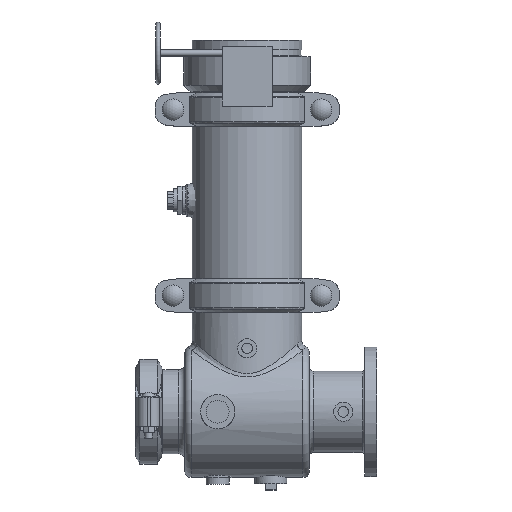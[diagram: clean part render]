
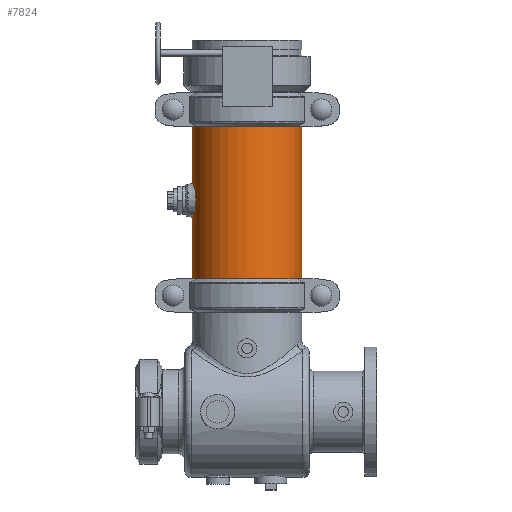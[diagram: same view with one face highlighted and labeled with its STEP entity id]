
A CAD part, top view. The second image highlights one B-rep face of the part: STEP entity #7824.
In plain terms, the highlighted cylindrical face has radius 109.537 mm (diameter 219.075 mm), a full revolution.
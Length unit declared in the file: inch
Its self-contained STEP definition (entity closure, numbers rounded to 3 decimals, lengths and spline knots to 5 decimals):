
#733=FACE_OUTER_BOUND('',#1215,.T.);
#1215=EDGE_LOOP('',(#5825,#5826,#5827,#5828,#5829,#5830));
#1723=CIRCLE('',#8646,4.3125);
#1724=CIRCLE('',#8647,4.3125);
#1725=CIRCLE('',#8649,4.3125);
#1726=CIRCLE('',#8650,4.3125);
#2154=LINE('',#13804,#2691);
#2691=VECTOR('',#10169,4.3125);
#3358=VERTEX_POINT('',#13795);
#3359=VERTEX_POINT('',#13796);
#3360=VERTEX_POINT('',#13800);
#3361=VERTEX_POINT('',#13801);
#4248=EDGE_CURVE('',#3358,#3359,#1723,.T.);
#4249=EDGE_CURVE('',#3359,#3358,#1724,.T.);
#4250=EDGE_CURVE('',#3360,#3361,#1725,.T.);
#4251=EDGE_CURVE('',#3361,#3360,#1726,.T.);
#4252=EDGE_CURVE('',#3361,#3359,#2154,.T.);
#5825=ORIENTED_EDGE('',*,*,#4250,.F.);
#5826=ORIENTED_EDGE('',*,*,#4251,.F.);
#5827=ORIENTED_EDGE('',*,*,#4252,.T.);
#5828=ORIENTED_EDGE('',*,*,#4249,.T.);
#5829=ORIENTED_EDGE('',*,*,#4248,.T.);
#5830=ORIENTED_EDGE('',*,*,#4252,.F.);
#7140=CYLINDRICAL_SURFACE('',#8648,4.3125);
#7824=ADVANCED_FACE('',(#733),#7140,.T.);
#8646=AXIS2_PLACEMENT_3D('',#13797,#10159,#10160);
#8647=AXIS2_PLACEMENT_3D('',#13798,#10161,#10162);
#8648=AXIS2_PLACEMENT_3D('',#13799,#10163,#10164);
#8649=AXIS2_PLACEMENT_3D('',#13802,#10165,#10166);
#8650=AXIS2_PLACEMENT_3D('',#13803,#10167,#10168);
#10159=DIRECTION('center_axis',(0.,-1.,0.));
#10160=DIRECTION('ref_axis',(1.,0.,0.));
#10161=DIRECTION('center_axis',(0.,-1.,0.));
#10162=DIRECTION('ref_axis',(1.,0.,0.));
#10163=DIRECTION('center_axis',(0.,-1.,0.));
#10164=DIRECTION('ref_axis',(1.,0.,0.));
#10165=DIRECTION('center_axis',(0.,-1.,0.));
#10166=DIRECTION('ref_axis',(1.,0.,0.));
#10167=DIRECTION('center_axis',(0.,-1.,0.));
#10168=DIRECTION('ref_axis',(1.,0.,0.));
#10169=DIRECTION('',(0.,1.,0.));
#13795=CARTESIAN_POINT('',(4.3125,6.002,0.));
#13796=CARTESIAN_POINT('',(-4.3125,6.002,0.));
#13797=CARTESIAN_POINT('Origin',(0.,6.002,0.));
#13798=CARTESIAN_POINT('Origin',(0.,6.002,0.));
#13799=CARTESIAN_POINT('Origin',(0.,0.,
0.));
#13800=CARTESIAN_POINT('',(4.3125,-6.002,0.));
#13801=CARTESIAN_POINT('',(-4.3125,-6.002,0.));
#13802=CARTESIAN_POINT('Origin',(0.,-6.002,0.));
#13803=CARTESIAN_POINT('Origin',(0.,-6.002,0.));
#13804=CARTESIAN_POINT('',(-4.3125,0.,0.));
